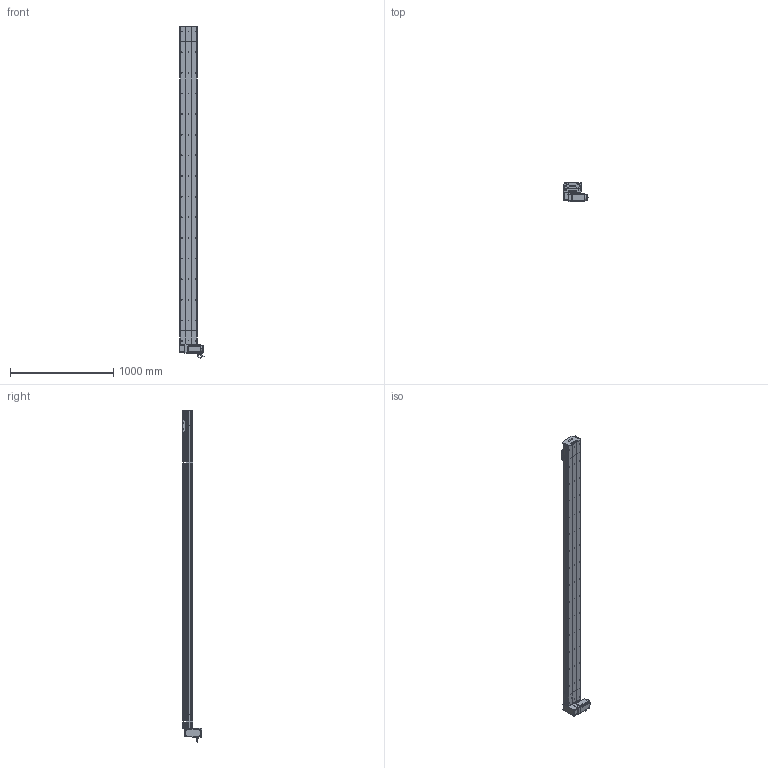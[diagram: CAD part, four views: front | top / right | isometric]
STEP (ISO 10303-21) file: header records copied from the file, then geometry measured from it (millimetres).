
FILE_DESCRIPTION (( 'STEP AP214' ), '1' );
FILE_NAME ('D17 TBN RU S2800.STEP', '2010-06-30T13:16:26', ( 'Conseil Régional Haute-Normandie' ), ( 'Conseil Régional Haute-Normandie' ), 'SwSTEP 2.0', 'SolidWorks 2010', '' );
FILE_SCHEMA (( 'AUTOMOTIVE_DESIGN' ));
Length unit declared in the file: millimetre
Products named in the file (40): Chariot D17 TBN; chariot D17 TBN; vis M5 L25_Default; vis M5 L12_Default; poulie tail_Default; plaque de  bout tail D17B_Default; Rail D17B; vis M5 L8 90°_Default; couvercle D17B_Default; guide D17; Couroie tail D17B_Default; tete d''axe poulie D17B; corpl tail D17B_Default; Tail D17B_Default; Renvoi RU_Default; cache arbre D17_Default; Vis M5 L16-2_Default; vis M5 L16_Default; Plaque racord D17_Default; course 2800 D17B_Default; D17 TBN RU S2800; couvercle D17B course L2800_Default; corp D17B 2800_Default; Couroie+ rail D17 Course 2800 ; couvercle D17B head_Default; corpl head D17 _Default; Head RU D17B_Default; cache D17_Default; Arbre+rail head D17B; plaque de  bout head D17B RU_Default; couroie head D17_Default; poulie head_Default; vis M5 L5_Default; codeur 90BLDC125-640; corps 90BLDC125A-640; avant 90BLDC125A-640; Moteur motionking 90BLDC125A-640; vis M5 L70_Default; Conecteur_Default; Conecteur2_Default
Assembly tree (66 placements, depth 4):
  D17 TBN RU S2800
    chariot D17 TBN
      guide D17  x2
      Chariot D17 TBN
    course 2800 D17B_Default
      Couroie+ rail D17 Course 2800 
      couvercle D17B course L2800_Default
      corp D17B 2800_Default
    Head RU D17B_Default
      vis M5 L5_Default  x4
      vis M5 L12_Default  x8
      cache D17_Default  x2
      Moteur motionking 90BLDC125A-640
        Conecteur2_Default
        codeur 90BLDC125-640
        corps 90BLDC125A-640
        avant 90BLDC125A-640
        Conecteur_Default
      poulie head_Default
      couvercle D17B head_Default
      Vis M5 L16-2_Default  x4
      couroie head D17_Default
      vis M5 L16_Default  x2
      vis M5 L70_Default  x4
      Renvoi RU_Default
      cache arbre D17_Default
      corpl head D17 _Default
      Plaque racord D17_Default
      vis M5 L25_Default  x2
      Arbre+rail head D17B
      plaque de  bout head D17B RU_Default
    Tail D17B_Default
      vis M5 L25_Default  x2
      tete d''axe poulie D17B
      corpl tail D17B_Default
      vis M5 L12_Default  x4
      vis M5 L8 90°_Default  x2
      couvercle D17B_Default
      poulie tail_Default
      Couroie tail D17B_Default
      Rail D17B
      plaque de  bout tail D17B_Default
Bounding box: 245.2 x 188.65 x 3217.95 mm (x, y, z)
Volume: 18284074.7 mm3; surface area: 5333167.9 mm2
Topology: 89 solids, 89 shells, 2639 faces, 6781 edges, 4370 vertices
Faces by surface type: plane 1533, cylinder 809, bspline 136, cone 80, torus 77, sphere 4
Entity records: 85907 total; most frequent: CARTESIAN_POINT 25483, ORIENTED_EDGE 10734, DIRECTION 10132, EDGE_CURVE 5367, VERTEX_POINT 3514, VECTOR 3506, LINE 3506, AXIS2_PLACEMENT_3D 3313
